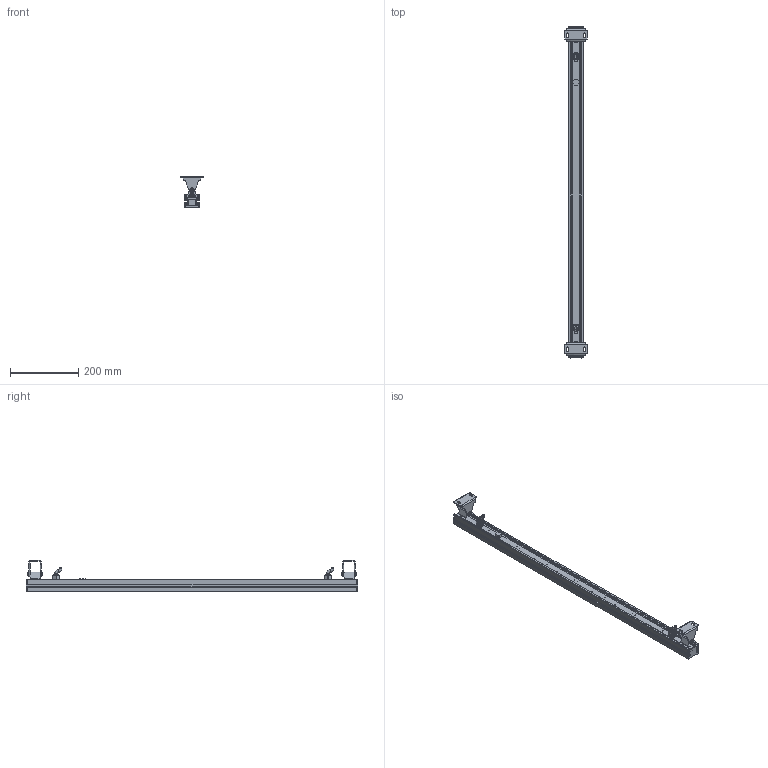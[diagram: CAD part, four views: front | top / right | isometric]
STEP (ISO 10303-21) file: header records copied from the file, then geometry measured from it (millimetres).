
FILE_DESCRIPTION((''),'2;1');
FILE_NAME('B6KD2457_ASM','2023-02-04T',('Administrator'),(''),'CREO PARAMETRIC BY PTC INC, 2015200','CREO PARAMETRIC BY PTC INC, 2015200','');
FILE_SCHEMA(('CONFIG_CONTROL_DESIGN'));
Length unit declared in the file: millimetre
Products named in the file (23): 6KE-A; PG9_U___M; ___J3; ___J1; ___J2; PG9___1_ASM; PG_______Y___ASM; 6K-_3D_2017_1_6_; 6K_56_1; 6K_LJB_24PCS_5; 6R_TJZJ_5; M3-22; 6K_LJB_ZJ_ASM_6_ASM; PRODUCT_88784_ANY_1_1; M3X6-YT_2; 6K_BL_1M_11; 002_53; XIAZHIJIA-6K-GAOY004_13; M9; M3; SOCKET_HEAD_CAP_SCREW_ISO_ISO_4; XINZHIJIA-6K-GAOYA004_ASM_12_ASM; B6KD2457_ASM
Assembly tree (41 placements, depth 4):
  B6KD2457_ASM
    6KE-A
    PG_______Y___ASM  x2
      PG9_U___M
      PG9___1_ASM
        ___J3
        ___J1
        ___J2
    6K-_3D_2017_1_6_  x2
    6K_56_1  x2
    6K_LJB_ZJ_ASM_6_ASM  x4
      6K_LJB_24PCS_5
      6R_TJZJ_5
      M3-22
    PRODUCT_88784_ANY_1_1
    M3X6-YT_2  x8
    6K_BL_1M_11
    XINZHIJIA-6K-GAOYA004_ASM_12_ASM  x2
      002_53
      XIAZHIJIA-6K-GAOY004_13
      M9
      M3
      SOCKET_HEAD_CAP_SCREW_ISO_ISO_4
Bounding box: 67 x 973.51 x 91.08 mm (x, y, z)
Volume: 886638.8 mm3; surface area: 491568.3 mm2
Topology: 59 solids, 59 shells, 3476 faces, 8516 edges, 5406 vertices
Faces by surface type: plane 1652, cylinder 966, cone 470, extrusion 264, revolution 48, bspline 36, torus 24, sphere 16
Entity records: 50773 total; most frequent: CARTESIAN_POINT 19421, ORIENTED_EDGE 6434, DIRECTION 6116, EDGE_CURVE 3217, VECTOR 2220, VERTEX_POINT 2098, LINE 2088, AXIS2_PLACEMENT_3D 1942
